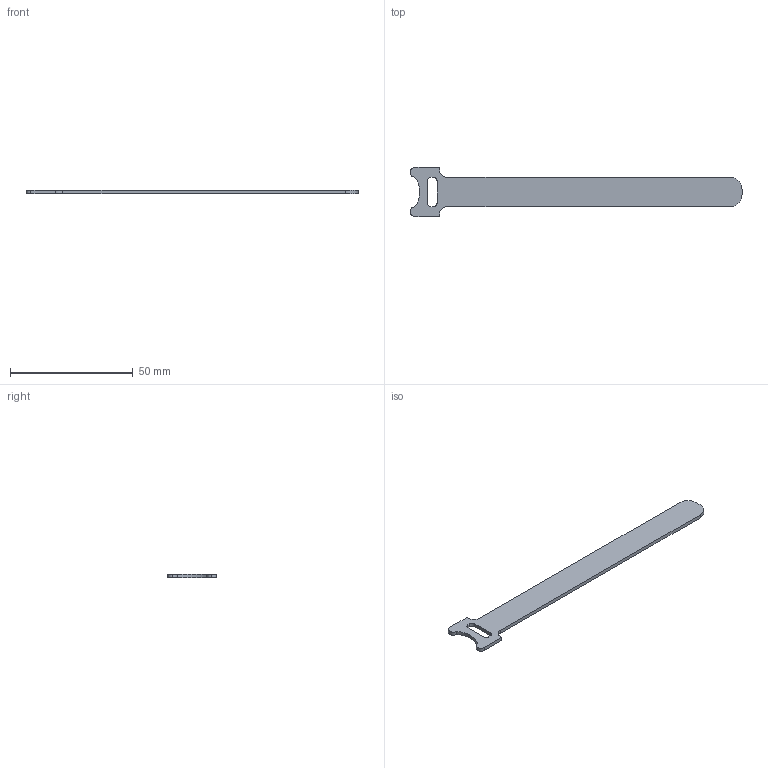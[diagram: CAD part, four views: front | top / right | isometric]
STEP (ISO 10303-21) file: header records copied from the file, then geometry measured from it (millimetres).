
FILE_DESCRIPTION (( 'STEP AP214' ), '1' );
FILE_NAME ('282874 OptiKit CT-L-M-135.STEP', '2020-05-25T10:56:31', ( '' ), ( '' ), 'SwSTEP 2.0', 'SolidWorks 2018', '' );
FILE_SCHEMA (( 'AUTOMOTIVE_DESIGN' ));
Length unit declared in the file: millimetre
Products named in the file (1): 282874 OptiKit CT-L-M-135
Bounding box: 135 x 20 x 1.5 mm (x, y, z)
Volume: 2428.9 mm3; surface area: 3739.6 mm2
Topology: 1 solids, 1 shells, 26 faces, 72 edges, 48 vertices
Faces by surface type: cylinder 13, plane 13
Entity records: 880 total; most frequent: DIRECTION 152, CARTESIAN_POINT 147, ORIENTED_EDGE 144, EDGE_CURVE 72, AXIS2_PLACEMENT_3D 53, VERTEX_POINT 48, VECTOR 46, LINE 46
